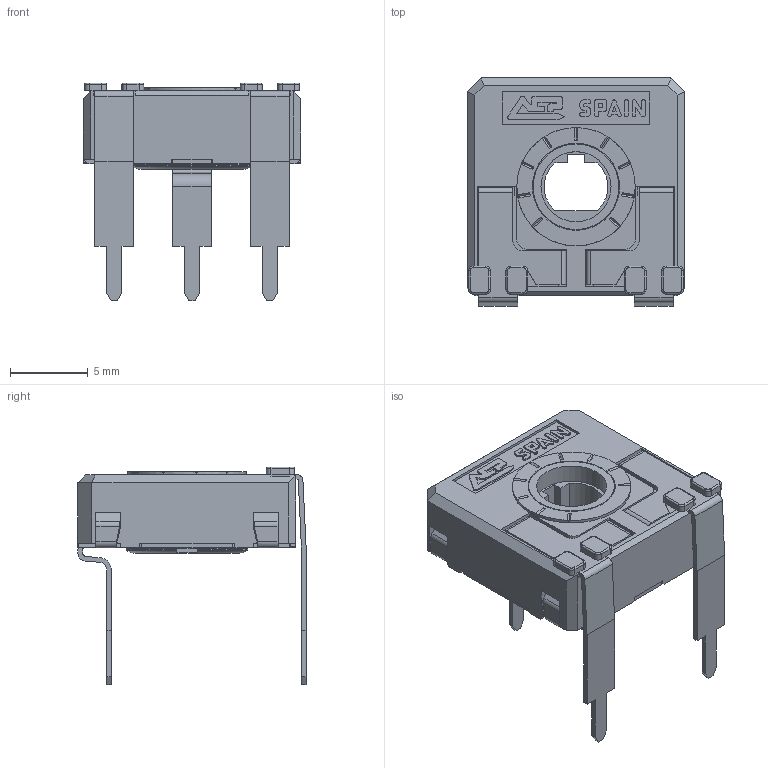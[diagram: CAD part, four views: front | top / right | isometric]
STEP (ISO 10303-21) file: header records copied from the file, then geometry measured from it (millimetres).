
FILE_DESCRIPTION(/* description */ (''),/* implementation_level */ '2;1');
FILE_NAME(/* name */ 'C:\Users\CEM\Desktop\ENVIAR\TRANSICION 3D CATALOGOS\RS14TVL12,5.stp',/* time_stamp */ '2025-12-10T11:30:33+01:00',/* author */ ('CEM'),/* organization */ (''),/* preprocessor_version */ 'ST-DEVELOPER v16.13',/* originating_system */ 'Autodesk Inventor 2018',/* authorisation */ '');
FILE_SCHEMA (('AUTOMOTIVE_DESIGN { 1 0 10303 214 3 1 1 }'));
Length unit declared in the file: millimetre
Products named in the file (1): CARCASA CA14 PGA
Bounding box: 14 x 14.65 x 14 mm (x, y, z)
Volume: 532.2 mm3; surface area: 1534.3 mm2
Topology: 1 solids, 1 shells, 683 faces, 1926 edges, 1240 vertices
Faces by surface type: plane 503, cylinder 143, torus 23, bspline 8, cone 6
Full cylindrical faces by diameter (mm): 4.5 x1, 5.5 x1, 5.6 x1, 5.752 x1, 6.8 x1, 7.6 x1
Entity records: 22144 total; most frequent: CARTESIAN_POINT 4044, ORIENTED_EDGE 3824, DIRECTION 3608, EDGE_CURVE 1912, LINE 1512, VECTOR 1512, VERTEX_POINT 1236, AXIS2_PLACEMENT_3D 1048
